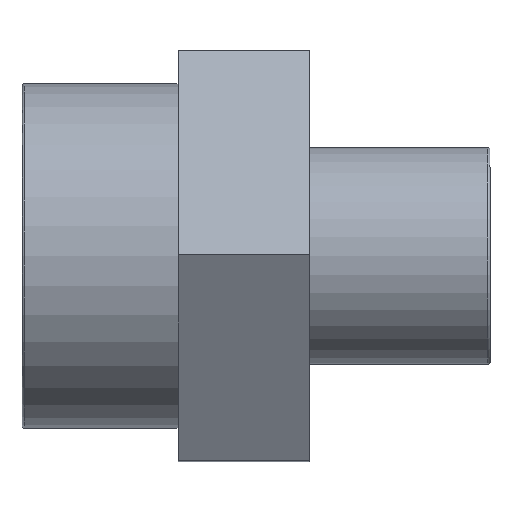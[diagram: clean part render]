
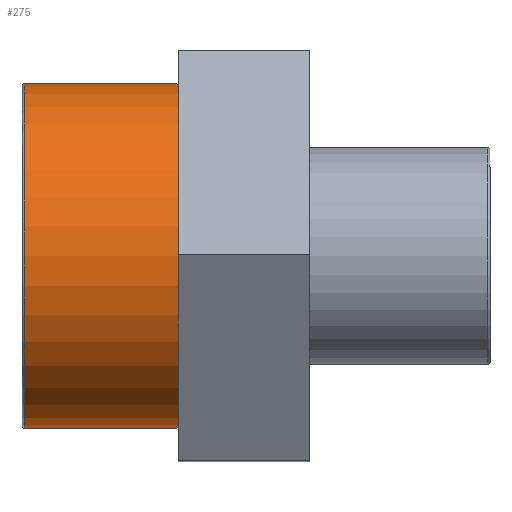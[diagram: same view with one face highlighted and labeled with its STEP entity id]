
A CAD part, top view. The second image highlights one B-rep face of the part: STEP entity #275.
In plain terms, the highlighted cylindrical face has radius 20.955 mm (diameter 41.91 mm), a full revolution.
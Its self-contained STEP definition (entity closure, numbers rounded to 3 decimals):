
#18=CYLINDRICAL_SURFACE('',#307,20.955);
#28=FACE_BOUND('',#92,.T.);
#42=CIRCLE('',#306,20.955);
#43=CIRCLE('',#308,20.955);
#63=FACE_OUTER_BOUND('',#91,.T.);
#91=EDGE_LOOP('',(#231));
#92=EDGE_LOOP('',(#232));
#157=VERTEX_POINT('',#460);
#158=VERTEX_POINT('',#463);
#187=EDGE_CURVE('',#157,#157,#42,.T.);
#188=EDGE_CURVE('',#158,#158,#43,.T.);
#231=ORIENTED_EDGE('',*,*,#188,.T.);
#232=ORIENTED_EDGE('',*,*,#187,.F.);
#275=ADVANCED_FACE('',(#63,#28),#18,.T.);
#306=AXIS2_PLACEMENT_3D('',#461,#382,#383);
#307=AXIS2_PLACEMENT_3D('',#462,#384,#385);
#308=AXIS2_PLACEMENT_3D('',#464,#386,#387);
#382=DIRECTION('center_axis',(-1.,0.,0.));
#383=DIRECTION('ref_axis',(0.,1.,0.));
#384=DIRECTION('center_axis',(-1.,0.,0.));
#385=DIRECTION('ref_axis',(0.,-1.,0.));
#386=DIRECTION('center_axis',(-1.,0.,0.));
#387=DIRECTION('ref_axis',(0.,0.,1.));
#460=CARTESIAN_POINT('',(-28.236,-20.955,0.));
#461=CARTESIAN_POINT('Origin',(-28.236,0.,0.));
#462=CARTESIAN_POINT('Origin',(-19.,0.,0.));
#463=CARTESIAN_POINT('',(-9.5,-20.955,0.));
#464=CARTESIAN_POINT('Origin',(-9.5,0.,0.));
